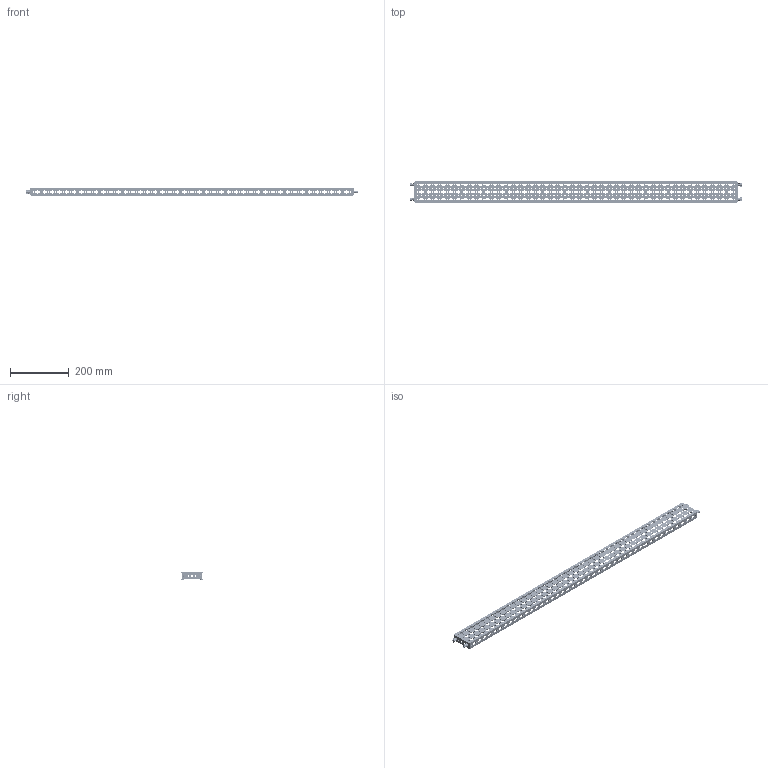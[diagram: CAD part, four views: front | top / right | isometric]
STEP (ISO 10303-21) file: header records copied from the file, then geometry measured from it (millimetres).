
FILE_DESCRIPTION(('Open CASCADE Model'),'2;1');
FILE_NAME('Open CASCADE Shape Model','2025-02-21T17:49:39',('Author'),( 'Open CASCADE'),'Open CASCADE STEP processor 7.8','Open CASCADE 7.8' ,'Unknown');
FILE_SCHEMA(('AUTOMOTIVE_DESIGN { 1 0 10303 214 1 1 1 1 }'));
Length unit declared in the file: millimetre
Products named in the file (4): Compound1; Solid1; Solid2; Solid3
Assembly tree (9 placements, depth 2):
  Compound1
    Solid1
    Solid2  x4
    Solid3  x4
Bounding box: 1127.6 x 75 x 25 mm (x, y, z)
Volume: 191463.5 mm3; surface area: 281872.2 mm2
Topology: 13 solids, 13 shells, 4638 faces, 13817 edges, 9197 vertices
Faces by surface type: cylinder 2710, plane 1652, bspline 176, torus 56, cone 40, sphere 4
Full cylindrical faces by diameter (mm): 4.2 x394, 5.5 x4, 6 x4, 6.5 x10, 8.3 x4, 12 x4
Entity records: 147324 total; most frequent: CARTESIAN_POINT 29544, DIRECTION 25314, ORIENTED_EDGE 24740, EDGE_CURVE 12370, AXIS2_PLACEMENT_3D 9497, VERTEX_POINT 8300, LINE 6320, VECTOR 6320
